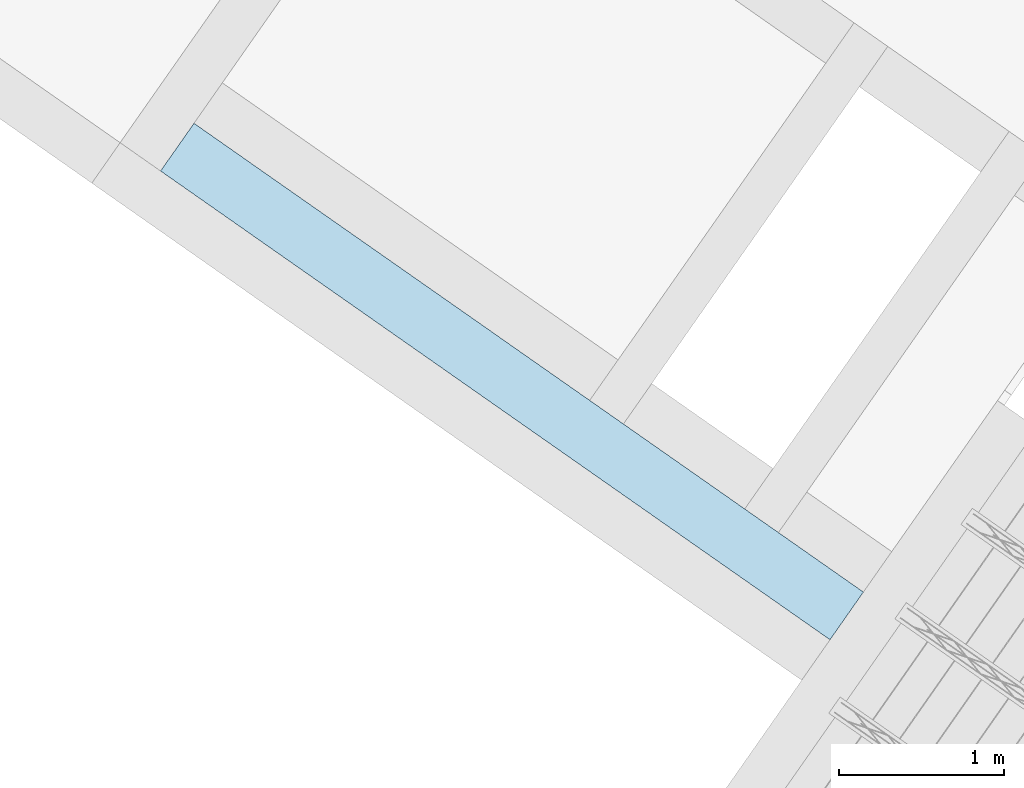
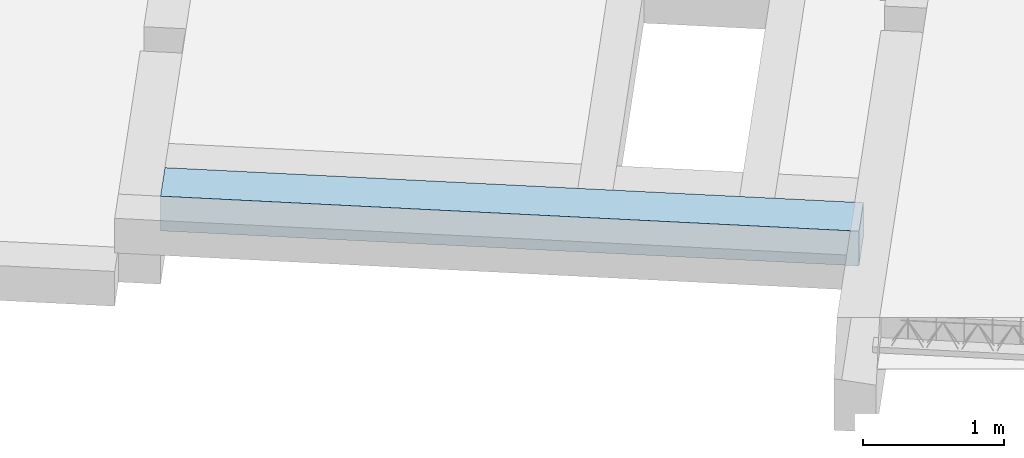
# One storey, part 29 of 46: 1 slab.
"""IFC2X3 building model written with IfcOpenShell, lengths in metres."""

import ifcopenshell
import ifcopenshell.guid

model = None  # the IFC model being written
_history = None  # IfcOwnerHistory: only IFC2X3 demands one
_inside = {}  # id of a spatial element -> (the spatial element, [elements in it])
_under = {}  # id of a project, library or spatial element -> (it, [spatial elements below it])
_declared = {}  # id of a project -> (the project, [libraries it declares])
_typed = {}  # id of a type object -> (the type object, [elements of that type])
_made_of = {}  # id of a material, layer set ... -> (it, [elements and type objects made of it])


def new_model(schema):
    """Start an empty IFC model of exactly this schema.

    Asked for "IFC4X3", IfcOpenShell would pick the latest addendum, in which some entities
    have other attributes; the version numbers below select the first issue.
    IFC2X3 requires an IfcOwnerHistory on every rooted entity: one is made here for all.
    """
    global model, _history
    if schema == "IFC4X3":
        model = ifcopenshell.file(schema_version=(4, 3, 0, 0))
    else:
        model = ifcopenshell.file(schema=schema)
    _inside.clear()
    _under.clear()
    _declared.clear()
    _typed.clear()
    _made_of.clear()
    _history = None
    if model.schema == "IFC2X3":
        org = make("IfcOrganization", Name="unknown")
        user = make(
            "IfcPersonAndOrganization",
            ThePerson=make("IfcPerson", FamilyName="unknown"),
            TheOrganization=org,
        )
        app = make(
            "IfcApplication",
            ApplicationDeveloper=org,
            Version="unknown",
            ApplicationFullName="unknown",
            ApplicationIdentifier="unknown",
        )
        _history = make(
            "IfcOwnerHistory",
            OwningUser=user,
            OwningApplication=app,
            ChangeAction="ADDED",
            CreationDate=0,
        )
    return model


def make(cls, **values):
    """One entity of the class cls with the attributes given. An attribute that is None is left unset."""
    return model.create_entity(
        cls, **{name: value for name, value in values.items() if value is not None}
    )


def entity(cls, *values):
    """Any entity or typed value of the class cls, its attributes in the order of the schema. None: left unset."""
    e = model.create_entity(cls)
    for i, value in enumerate(values):
        if value is not None:
            e[i] = value
    return e


def rooted(cls, **values):
    """An entity with a GlobalId (a new one), such as an element, a storey or a relation."""
    return make(cls, GlobalId=ifcopenshell.guid.new(), OwnerHistory=_history, **values)


def si_unit(unit_type, name, prefix=None):
    """IfcSIUnit, for example si_unit("LENGTHUNIT", "METRE", prefix="MILLI")."""
    return make("IfcSIUnit", UnitType=unit_type, Prefix=prefix, Name=name)


def converted_unit(unit_type, name, factor, base, dimensions=None, offset=None):
    """IfcConversionBasedUnit, such as the inch: factor (a typed value) times the base unit."""
    return make(
        "IfcConversionBasedUnit"
        if offset is None
        else "IfcConversionBasedUnitWithOffset",
        ConversionOffset=offset,
        Dimensions=None
        if dimensions is None
        else entity("IfcDimensionalExponents", *dimensions),
        UnitType=unit_type,
        Name=name,
        ConversionFactor=make(
            "IfcMeasureWithUnit", ValueComponent=factor, UnitComponent=base
        ),
    )


def derived_unit(unit_type, elements):
    """IfcDerivedUnit: a product of units, each with its exponent."""
    return make(
        "IfcDerivedUnit",
        Elements=[
            make("IfcDerivedUnitElement", Unit=unit, Exponent=power)
            for unit, power in elements
        ],
        UnitType=unit_type,
    )


def assignment(units):
    """IfcUnitAssignment: the units of a project."""
    return None if units is None else make("IfcUnitAssignment", Units=units)


def point(xyz):
    """IfcCartesianPoint."""
    return None if xyz is None else make("IfcCartesianPoint", Coordinates=xyz)


def direction(xyz):
    """IfcDirection."""
    return None if xyz is None else make("IfcDirection", DirectionRatios=xyz)


def frame(location, z_axis=None, x_axis=None):
    """IfcAxis2Placement3D, a coordinate frame: its origin and axes. An axis left out is left unset."""
    return make(
        "IfcAxis2Placement3D",
        Location=point(location),
        Axis=direction(z_axis),
        RefDirection=direction(x_axis),
    )


def origin():
    """The frame at (0, 0, 0) with its axes left unset."""
    return frame((0.0, 0.0, 0.0))


def place(relative_to, where):
    """IfcLocalPlacement: puts the frame where relative to a parent placement (None: the world)."""
    return make(
        "IfcLocalPlacement", PlacementRelTo=relative_to, RelativePlacement=where
    )


def context(
    kind, dimensions, precision=None, world=None, true_north=None, identifier=None
):
    """IfcGeometricRepresentationContext, for example the 3D "Model" context."""
    return make(
        "IfcGeometricRepresentationContext",
        ContextIdentifier=identifier,
        ContextType=kind,
        CoordinateSpaceDimension=dimensions,
        Precision=precision,
        WorldCoordinateSystem=world,
        TrueNorth=true_north,
    )


def subcontext(parent, identifier, kind, view, scale=None):
    """IfcGeometricRepresentationSubContext, for example "Body" below "Model"."""
    return make(
        "IfcGeometricRepresentationSubContext",
        ContextIdentifier=identifier,
        ContextType=kind,
        ParentContext=parent,
        TargetScale=scale,
        TargetView=view,
    )


def project(units=None, contexts=None):
    """IfcProject with its units and contexts."""
    return rooted(
        "IfcProject",
        Name="project",
        RepresentationContexts=contexts,
        UnitsInContext=assignment(units),
    )


def spatial(cls, under=None, at=None, **own):
    """A site, building, storey or space (cls), placed at a placement, below another one or the project."""
    s = rooted(cls, ObjectPlacement=at, **own)
    if under is not None:
        _under.setdefault(under.id(), (under, []))[1].append(s)
    return s


def polyline(points):
    """IfcPolyline through the points."""
    return make("IfcPolyline", Points=[point(p) for p in points])


def outline(outer, holes=None, kind="AREA"):
    """IfcArbitraryClosedProfileDef: a profile drawn as a closed curve; with holes, ...WithVoids."""
    if holes is None:
        return make("IfcArbitraryClosedProfileDef", ProfileType=kind, OuterCurve=outer)
    return make(
        "IfcArbitraryProfileDefWithVoids",
        ProfileType=kind,
        OuterCurve=outer,
        InnerCurves=holes,
    )


def extrude(swept, where, along, depth):
    """IfcExtrudedAreaSolid: the profile swept, set in the frame where, extruded along a direction by depth."""
    return make(
        "IfcExtrudedAreaSolid",
        SweptArea=swept,
        Position=where,
        ExtrudedDirection=direction(along),
        Depth=depth,
    )


def shape(context_of_items, identifier, shape_type, items):
    """IfcShapeRepresentation: the items that make up one representation, for example the "Body"."""
    return make(
        "IfcShapeRepresentation",
        ContextOfItems=context_of_items,
        RepresentationIdentifier=identifier,
        RepresentationType=shape_type,
        Items=items,
    )


def made_of(thing, what):
    """Note that an element or type object is made of a material, layer set ...; save() writes the relation."""
    if what is not None:
        _made_of.setdefault(what.id(), (what, []))[1].append(thing)
    return thing


def type_object(cls, material=None, **own):
    """A type object (cls), such as IfcWallType, which elements share."""
    return made_of(rooted(cls, **own), material)


def element(
    cls,
    number,
    at=None,
    inside=None,
    cuts=None,
    type_object=None,
    material=None,
    context=None,
    identifier="Body",
    shape_type=None,
    held_by="IfcProductDefinitionShape",
    body=None,
    shapes=None,
    **own,
):
    """One element of the class cls, such as IfcWall. Its Tag is "e" and its number.

    at: its placement. inside: the storey or other place that contains it. cuts: it is an
    opening in that element (IfcRelVoidsElement). A single representation is given by context,
    identifier, shape_type and body (its items); several are given by shapes. held_by: the class
    of the entity that holds the representations. save() writes the other relations.
    """
    e = rooted(cls, Tag="e%d" % number, ObjectPlacement=at, **own)
    if body is not None:
        shapes = [shape(context, identifier, shape_type, body)]
    if shapes is not None:
        e.Representation = make(held_by, Representations=shapes)
    if inside is not None:
        _inside.setdefault(inside.id(), (inside, []))[1].append(e)
    if cuts is not None:
        rooted(
            "IfcRelVoidsElement", RelatingBuildingElement=cuts, RelatedOpeningElement=e
        )
    if type_object is not None:
        _typed.setdefault(type_object.id(), (type_object, []))[1].append(e)
    return made_of(e, material)


def aggregate(whole, parts):
    """IfcRelAggregates: a whole, such as a stair, and the parts it consists of."""
    return rooted("IfcRelAggregates", RelatingObject=whole, RelatedObjects=parts)


def save(model, path):
    """Write the relations noted so far, then the file.

    IfcRelAggregates (storeys below a building ...), IfcRelContainedInSpatialStructure (elements
    in a storey), IfcRelDefinesByType, IfcRelAssociatesMaterial and IfcRelDeclares: one each for
    every whole, place, type object, material and project.
    """
    for whole, parts in _under.values():
        aggregate(whole, parts)
    for where, things in _inside.values():
        rooted(
            "IfcRelContainedInSpatialStructure",
            RelatedElements=things,
            RelatingStructure=where,
        )
    for kind, things in _typed.values():
        rooted("IfcRelDefinesByType", RelatedObjects=things, RelatingType=kind)
    for what, things in _made_of.values():
        rooted("IfcRelAssociatesMaterial", RelatedObjects=things, RelatingMaterial=what)
    for by, libraries in _declared.values():
        rooted("IfcRelDeclares", RelatingContext=by, RelatedDefinitions=libraries)
    model.write(path)


model = new_model("IFC2X3")

# Units and contexts
model_context = context("Model", 3, precision=1e-05, world=origin(), true_north=direction((6.123031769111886e-17, 1.0)))
body_context = subcontext(model_context, "Body", "Model", "MODEL_VIEW")
ifc_project = project(units=[si_unit("LENGTHUNIT", "METRE"), si_unit("AREAUNIT", "SQUARE_METRE"), si_unit("VOLUMEUNIT", "CUBIC_METRE"), converted_unit("PLANEANGLEUNIT", "DEGREE", entity("IfcPlaneAngleMeasure", 0.017453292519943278), si_unit("PLANEANGLEUNIT", "RADIAN"), dimensions=[0, 0, 0, 0, 0, 0, 0]), si_unit("MASSUNIT", "GRAM", prefix="KILO"), derived_unit("MASSDENSITYUNIT", [(si_unit("MASSUNIT", "GRAM", prefix="KILO"), 1), (si_unit("LENGTHUNIT", "METRE"), -3)]), derived_unit("IONCONCENTRATIONUNIT", [(si_unit("MASSUNIT", "GRAM", prefix="KILO"), 1), (si_unit("LENGTHUNIT", "METRE"), -3)]), derived_unit("MOMENTOFINERTIAUNIT", [(si_unit("LENGTHUNIT", "METRE"), 4)]), si_unit("TIMEUNIT", "SECOND"), si_unit("FREQUENCYUNIT", "HERTZ"), si_unit("THERMODYNAMICTEMPERATUREUNIT", "DEGREE_CELSIUS"), derived_unit("THERMALTRANSMITTANCEUNIT", [(si_unit("MASSUNIT", "GRAM", prefix="KILO"), 1), (si_unit("THERMODYNAMICTEMPERATUREUNIT", "KELVIN"), -1), (si_unit("TIMEUNIT", "SECOND"), -3)]), derived_unit("THERMALCONDUCTANCEUNIT", [(si_unit("MASSUNIT", "GRAM", prefix="KILO"), 1), (si_unit("THERMODYNAMICTEMPERATUREUNIT", "KELVIN"), -1), (si_unit("TIMEUNIT", "SECOND"), -3), (si_unit("LENGTHUNIT", "METRE"), 1)]), derived_unit("VOLUMETRICFLOWRATEUNIT", [(si_unit("LENGTHUNIT", "METRE", prefix="DECI"), 3), (si_unit("TIMEUNIT", "SECOND"), -1)]), derived_unit("MASSFLOWRATEUNIT", [(si_unit("MASSUNIT", "GRAM", prefix="KILO"), 1), (si_unit("TIMEUNIT", "SECOND"), -1)]), derived_unit("ROTATIONALFREQUENCYUNIT", [(si_unit("TIMEUNIT", "SECOND"), -1)]), si_unit("ELECTRICCURRENTUNIT", "AMPERE"), si_unit("ELECTRICVOLTAGEUNIT", "VOLT"), si_unit("POWERUNIT", "WATT"), si_unit("FORCEUNIT", "NEWTON", prefix="KILO"), si_unit("ILLUMINANCEUNIT", "LUX"), si_unit("LUMINOUSFLUXUNIT", "LUMEN"), si_unit("LUMINOUSINTENSITYUNIT", "CANDELA"), si_unit("ENERGYUNIT", "JOULE"), derived_unit("USERDEFINED", [(si_unit("MASSUNIT", "GRAM", prefix="KILO"), -1), (si_unit("LENGTHUNIT", "METRE"), -2), (si_unit("TIMEUNIT", "SECOND"), 3), (si_unit("LUMINOUSFLUXUNIT", "LUMEN"), 1)]), derived_unit("USERDEFINED", [(si_unit("MASSUNIT", "GRAM", prefix="KILO"), 1), (si_unit("TIMEUNIT", "SECOND"), -3), (si_unit("LENGTHUNIT", "METRE"), 3), (si_unit("ELECTRICCURRENTUNIT", "AMPERE"), -2)]), derived_unit("SOUNDPOWERUNIT", [(si_unit("MASSUNIT", "GRAM", prefix="KILO"), 1), (si_unit("TIMEUNIT", "SECOND"), -3), (si_unit("LENGTHUNIT", "METRE"), 2)]), derived_unit("SOUNDPRESSUREUNIT", [(si_unit("MASSUNIT", "GRAM", prefix="KILO"), 1), (si_unit("LENGTHUNIT", "METRE"), -1), (si_unit("TIMEUNIT", "SECOND"), -2)]), derived_unit("LINEARVELOCITYUNIT", [(si_unit("LENGTHUNIT", "METRE"), 1), (si_unit("TIMEUNIT", "SECOND"), -1)]), si_unit("PRESSUREUNIT", "PASCAL"), derived_unit("USERDEFINED", [(si_unit("MASSUNIT", "GRAM", prefix="KILO"), 1), (si_unit("LENGTHUNIT", "METRE"), -2), (si_unit("TIMEUNIT", "SECOND"), -2)]), derived_unit("LINEARFORCEUNIT", [(si_unit("MASSUNIT", "GRAM", prefix="KILO"), 1), (si_unit("TIMEUNIT", "SECOND"), -2)]), derived_unit("PLANARFORCEUNIT", [(si_unit("MASSUNIT", "GRAM", prefix="KILO"), 1), (si_unit("LENGTHUNIT", "METRE"), -1), (si_unit("TIMEUNIT", "SECOND"), -2)]), derived_unit("SPECIFICHEATCAPACITYUNIT", [(si_unit("THERMODYNAMICTEMPERATUREUNIT", "KELVIN"), -1), (si_unit("LENGTHUNIT", "METRE"), 2), (si_unit("TIMEUNIT", "SECOND"), -2)]), derived_unit("HEATFLUXDENSITYUNIT", [(si_unit("MASSUNIT", "GRAM", prefix="KILO"), 1), (si_unit("TIMEUNIT", "SECOND"), -3)]), derived_unit("HEATINGVALUEUNIT", [(si_unit("LENGTHUNIT", "METRE"), 2), (si_unit("TIMEUNIT", "SECOND"), -2)]), derived_unit("VAPORPERMEABILITYUNIT", [(si_unit("LENGTHUNIT", "METRE"), -1), (si_unit("TIMEUNIT", "SECOND"), 1)]), derived_unit("DYNAMICVISCOSITYUNIT", [(si_unit("MASSUNIT", "GRAM", prefix="KILO"), 1), (si_unit("TIMEUNIT", "SECOND"), -1), (si_unit("LENGTHUNIT", "METRE"), -1)]), derived_unit("THERMALEXPANSIONCOEFFICIENTUNIT", [(si_unit("THERMODYNAMICTEMPERATUREUNIT", "KELVIN"), -1)]), derived_unit("MODULUSOFELASTICITYUNIT", [(si_unit("MASSUNIT", "GRAM", prefix="KILO"), 1), (si_unit("LENGTHUNIT", "METRE"), -1), (si_unit("TIMEUNIT", "SECOND"), -2)]), derived_unit("ISOTHERMALMOISTURECAPACITYUNIT", [(si_unit("MASSUNIT", "GRAM", prefix="KILO"), -1), (si_unit("LENGTHUNIT", "METRE"), 3)]), derived_unit("MOISTUREDIFFUSIVITYUNIT", [(si_unit("TIMEUNIT", "SECOND"), -1), (si_unit("LENGTHUNIT", "METRE"), 2)]), derived_unit("MASSPERLENGTHUNIT", [(si_unit("MASSUNIT", "GRAM", prefix="KILO"), 1), (si_unit("LENGTHUNIT", "METRE"), -1)]), derived_unit("THERMALRESISTANCEUNIT", [(si_unit("MASSUNIT", "GRAM", prefix="KILO"), -1), (si_unit("TIMEUNIT", "SECOND"), 3), (si_unit("THERMODYNAMICTEMPERATUREUNIT", "KELVIN"), 1)]), derived_unit("ACCELERATIONUNIT", [(si_unit("LENGTHUNIT", "METRE"), 1), (si_unit("TIMEUNIT", "SECOND"), -2)]), derived_unit("ANGULARVELOCITYUNIT", [(si_unit("TIMEUNIT", "SECOND"), -1), (si_unit("PLANEANGLEUNIT", "RADIAN"), 1)]), derived_unit("LINEARSTIFFNESSUNIT", [(si_unit("MASSUNIT", "GRAM", prefix="KILO"), 1), (si_unit("TIMEUNIT", "SECOND"), -2)]), derived_unit("WARPINGCONSTANTUNIT", [(si_unit("LENGTHUNIT", "METRE"), 6)]), derived_unit("LINEARMOMENTUNIT", [(si_unit("MASSUNIT", "GRAM", prefix="KILO"), 1), (si_unit("LENGTHUNIT", "METRE"), 1), (si_unit("TIMEUNIT", "SECOND"), -2)]), derived_unit("TORQUEUNIT", [(si_unit("MASSUNIT", "GRAM", prefix="KILO"), 1), (si_unit("LENGTHUNIT", "METRE"), 2), (si_unit("TIMEUNIT", "SECOND"), -2)])], contexts=[model_context])

# Site, building, storey
site_placement = place(None, origin())
site = spatial("IfcSite", under=ifc_project, at=site_placement, Name="Default", CompositionType="ELEMENT")
building_placement = place(site_placement, origin())
building = spatial("IfcBuilding", under=site, at=building_placement, CompositionType="ELEMENT")
storey_placement = place(building_placement, frame((0.0, 0.0, 99.52000000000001)))
storey = spatial("IfcBuildingStorey", under=building, at=storey_placement, Name="F1", CompositionType="ELEMENT", Elevation=99.52000000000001)

# Slab
slab_type = type_object("IfcSlabType", Name="Forma directa:DirectShapeType 1092", PredefinedType="FLOOR")
slab_placement = place(storey_placement, origin())
element("IfcSlab", 1, at=slab_placement, inside=storey, type_object=slab_type, Name="Paño 14 (30 cm)", ObjectType="Covicsa Armada(25+5)", PredefinedType="FLOOR", context=body_context, shape_type="SweptSolid", body=[
    extrude(outline(polyline([(-0.14156848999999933, -2.8282585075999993), (0.21228110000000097, -2.8282585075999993), (0.21242436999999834, 2.137295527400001), (-0.1415684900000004, 2.1372955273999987), (-0.1415684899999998, 1.3819259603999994), (-0.14156848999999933, -2.8282585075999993)])), frame((3.6023190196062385, -0.8470302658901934, -0.3000000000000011), z_axis=(0.0, 0.0, 1.0), x_axis=(-0.5735764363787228, -0.8191520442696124, 0.0)), (0.0, 0.0, 1.0), 0.3000000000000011),
])

save(model, "model.ifc")
